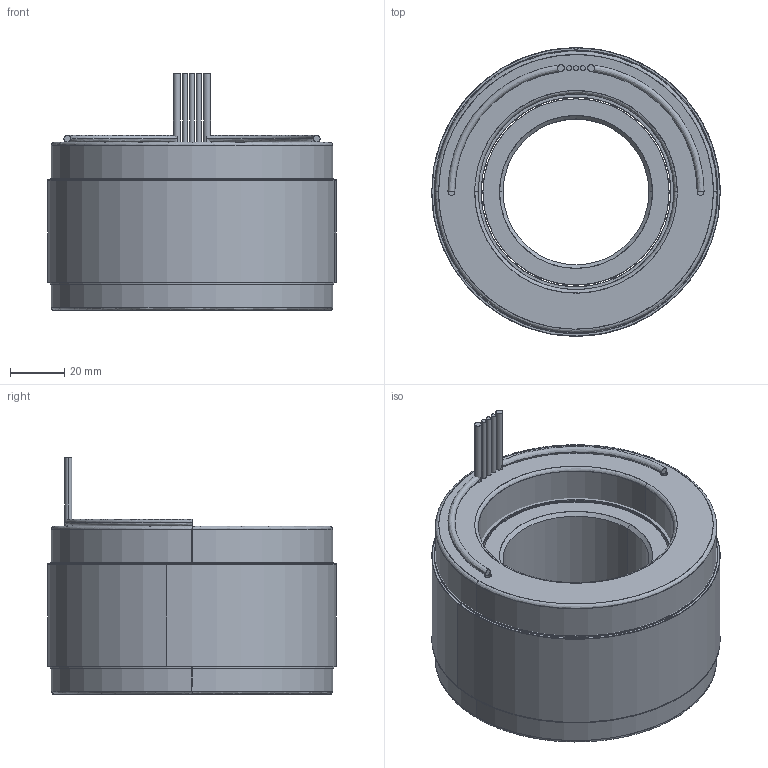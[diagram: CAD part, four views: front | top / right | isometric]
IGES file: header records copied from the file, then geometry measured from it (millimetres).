
Start section: SolidWorks IGES file using analytic representation for surfaces
Global section: file name: \\fs01.aveox.local\user documents\eng\My Documents\STANDARD STATOR ROTOR SETS\NEW DIRECT DRIVE MOTOR\4.2 OD 18S16P\6100329-02.IGS; native system: SolidWorks 2016; preprocessor: SolidWorks 2016; author: eng; date: 191023.143244; units: millimetre
Bounding box: 106.68 x 106.68 x 87.63 mm (x, y, z)
Surface area: 133503.8 mm2 (no closed solid volume)
Topology: 0 solids, 0 shells, 94 faces, 2628 edges, 2628 vertices
Faces by surface type: revolution 52, bspline 42
